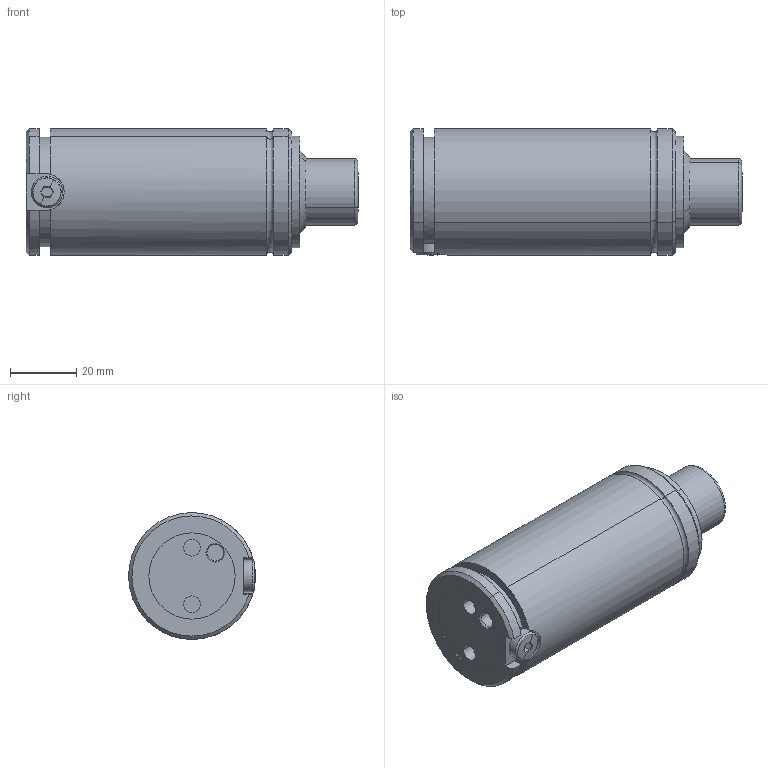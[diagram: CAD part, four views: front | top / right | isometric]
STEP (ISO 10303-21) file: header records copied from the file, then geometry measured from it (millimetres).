
FILE_DESCRIPTION(('CATIA V5 STEP Exchange'),'2;1');
FILE_NAME('W:\CATALOGO GENERAL 2015\CATIA\TPFS1000x25\TPFS 1000x16.stp','2017-11-21T12:28:33+00:00',('none'),('none'),'CATIA Version 5 Release 17 (IN-10)','CATIA V5 STEP AP203','none');
FILE_SCHEMA(('CONFIG_CONTROL_DESIGN'));
Length unit declared in the file: millimetre
Products named in the file (1): TPFS 1000x16
Assembly tree (4 placements, depth 2):
  TPFS 1000x16
    #56
    #1122
    #1312
    #1552
Bounding box: 100 x 38.19 x 38.19 mm (x, y, z)
Volume: 108279.5 mm3; surface area: 18904.2 mm2
Topology: 4 solids, 4 shells, 118 faces, 265 edges, 162 vertices
Faces by surface type: cylinder 31, cone 27, torus 26, plane 26, bspline 8
Entity records: 3389 total; most frequent: CARTESIAN_POINT 886, ORIENTED_EDGE 530, DIRECTION 397, EDGE_CURVE 265, AXIS2_PLACEMENT_3D 230, VERTEX_POINT 162, CIRCLE 143, EDGE_LOOP 127
